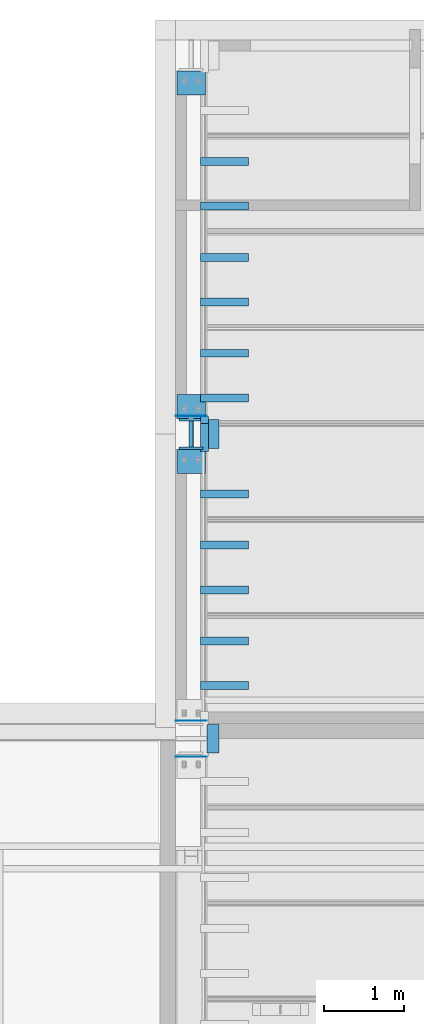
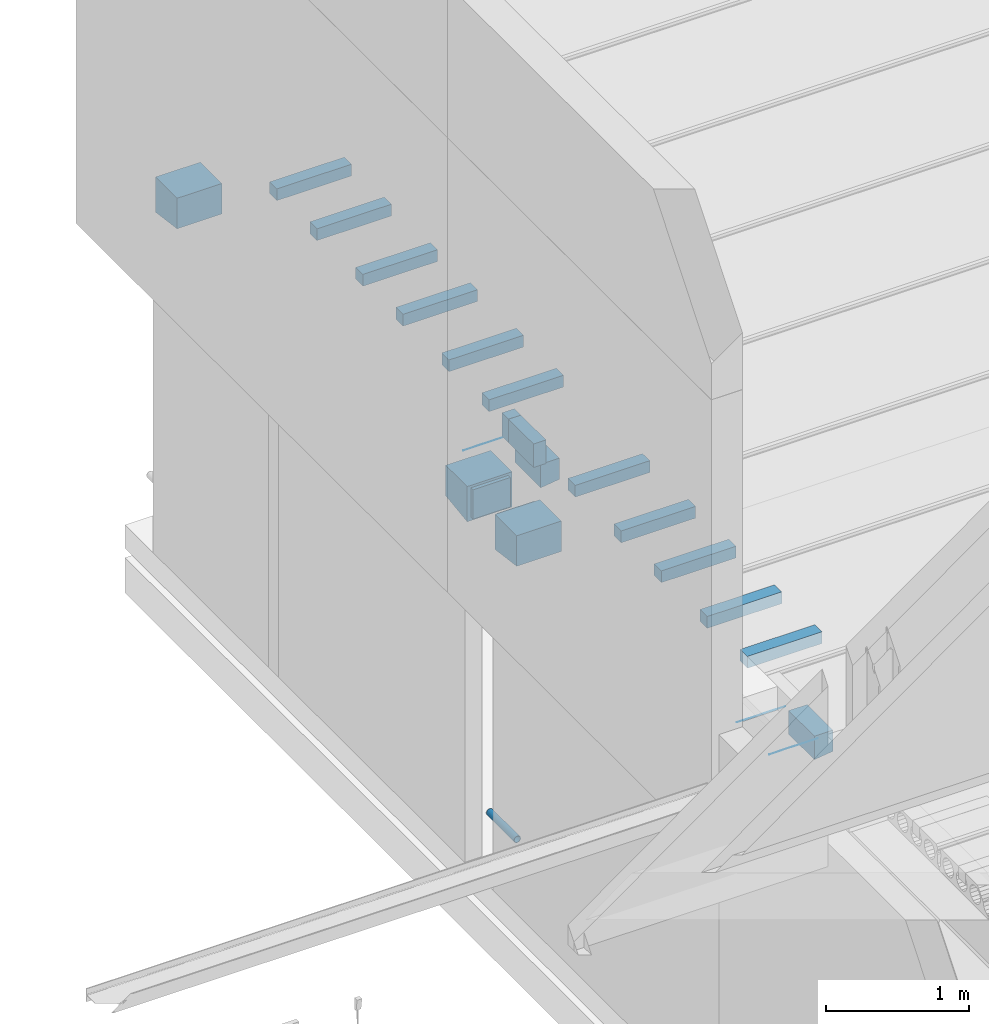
# One storey, part 24 of 230: 27 beams.
"""IFC4X3_ADD2 building model written with IfcOpenShell, lengths in millimetres."""

from ifc_helpers import new_model, entity, si_unit, direction, frame, frame_2d, origin_with_axes, place, context, subcontext, project, spatial, rectangle, hollow_circle, extrude, material, element, save


model = new_model("IFC4X3_ADD2")

# Units and contexts
model_context = context("Model", 3, precision=1e-05, world=origin_with_axes(), true_north=direction((0.0, 1.0)))
body_context = subcontext(model_context, "Body", "Model", "MODEL_VIEW")
ifc_project = project(units=[si_unit("LENGTHUNIT", "METRE", prefix="MILLI"), si_unit("AREAUNIT", "SQUARE_METRE"), si_unit("VOLUMEUNIT", "CUBIC_METRE"), si_unit("PLANEANGLEUNIT", "RADIAN"), si_unit("TIMEUNIT", "SECOND"), si_unit("MASSUNIT", "GRAM")], contexts=[model_context])

# Site, building, storey
site_placement = place(None, origin_with_axes())
site = spatial("IfcSite", under=ifc_project, at=site_placement, Name="Site", CompositionType="ELEMENT")
building_placement = place(site_placement, origin_with_axes())
building = spatial("IfcBuilding", under=site, at=building_placement, Name="IFC Building Story")
storey_placement = place(building_placement, origin_with_axes())
storey = spatial("IfcBuildingStorey", under=building, at=storey_placement, Name="ETAGE 00 (0)", Elevation=0.0)

# Beams
ifc_material_1 = material(Name="STEEL/Accessory_C50/60 64192")
for number, where, z_axis, x_axis, name in (
    (1, (33221.1883991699, 21274.9996109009, 3540.0), (1.0, 0.0, 0.0), (0.0, 0.0, 1.0), "BEK1"),
    (2, (33581.1883991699, 21964.9996109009, 3540.0), (-1.0, 0.0, 0.0), (0.0, 0.0, 1.0), "BEK1"),
):
    element("IfcBeam", number, at=place(storey_placement, frame(where, z_axis=z_axis, x_axis=x_axis)), inside=storey, material=ifc_material_1, Name=name, ObjectType="CORBEL300-300-260", context=body_context, shape_type="SweptSolid", body=[
        extrude(entity("IfcTrapeziumProfileDef", "AREA", None, entity("IfcAxis2Placement2D", entity("IfcCartesianPoint", [0.0, 5.95523630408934e-12]), entity("IfcDirection", [1.0, 0.0])), 300.0, 260.0, 300.0, 40.0), origin_with_axes(), (0.0, 0.0, 1.0), 360.0),
    ])
beam_1_placement = place(storey_placement, frame((33671.1883991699, 21439.9996109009, 3875.0), z_axis=(0.0, 1.0, 0.0), x_axis=(0.0, 0.0, 1.0)))
element("IfcBeam", 3, at=beam_1_placement, inside=storey, material=ifc_material_1, Name="BEK1", ObjectType="CORBEL200-150-180", context=body_context, shape_type="SweptSolid", body=[
    extrude(entity("IfcTrapeziumProfileDef", "AREA", None, entity("IfcAxis2Placement2D", entity("IfcCartesianPoint", [0.0, 5.95523630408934e-12]), entity("IfcDirection", [1.0, 0.0])), 200.0, 180.0, 150.0, 19.9999999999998), origin_with_axes(), (0.0, 0.0, 1.0), 360.0),
])
beam_2_placement = place(storey_placement, frame((33221.1883474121, 26009.9989624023, 3540.0), z_axis=(1.0, 0.0, 0.0), x_axis=(0.0, 0.0, 1.0)))
element("IfcBeam", 4, at=beam_2_placement, inside=storey, material=ifc_material_1, Name="BEK1", ObjectType="CORBEL300-300-260", context=body_context, shape_type="SweptSolid", body=[
    extrude(entity("IfcTrapeziumProfileDef", "AREA", None, entity("IfcAxis2Placement2D", entity("IfcCartesianPoint", [0.0, 5.95523630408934e-12]), entity("IfcDirection", [1.0, 0.0])), 300.0, 260.0, 300.0, 40.0), origin_with_axes(), (0.0, 0.0, 1.0), 360.0),
])
beam_3_placement = place(storey_placement, frame((33671.188, 17625.0, 3875.0), z_axis=(0.0, 1.0, 0.0), x_axis=(0.0, 0.0, 1.0)))
element("IfcBeam", 5, at=beam_3_placement, inside=storey, material=ifc_material_1, Name="BEK1", ObjectType="CORBEL200-150-180", context=body_context, shape_type="SweptSolid", body=[
    extrude(entity("IfcTrapeziumProfileDef", "AREA", None, entity("IfcAxis2Placement2D", entity("IfcCartesianPoint", [0.0, 5.95523630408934e-12]), entity("IfcDirection", [1.0, 0.0])), 200.0, 180.0, 150.0, 19.9999999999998), origin_with_axes(), (0.0, 0.0, 1.0), 360.0),
])
ifc_material_2 = material(Name="STEEL/Accessory_invisible")
for number, where, z_axis, x_axis, name in (
    (6, (34116.189, 19030.0009155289, 4150.0), (-1.0, 0.0, 0.0), (0.0, 1.0, 0.0), "ES7"),
    (7, (34116.189, 18470.0009155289, 4150.0), (-1.0, 0.0, 0.0), (0.0, 1.0, 0.0), "ES7"),
    (8, (34116.1890000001, 20230.0009155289, 4150.0), (-1.0, 0.0, 0.0), (0.0, 1.0, 0.0), "ES7"),
    (9, (34116.1889999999, 19670.0009155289, 4150.0), (-1.0, 0.0, 0.0), (0.0, 1.0, 0.0), "ES7"),
):
    element("IfcBeam", number, at=place(storey_placement, frame(where, z_axis=z_axis, x_axis=x_axis)), inside=storey, material=ifc_material_2, Name=name, ObjectType="100*100", context=body_context, shape_type="SweptSolid", body=[
        extrude(rectangle(XDim=100.0, YDim=99.99999999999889, at=frame_2d((0.0, 5.95523630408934e-12), x_axis=(1.0, 0.0))), origin_with_axes(), (0.0, 0.0, 1.0), 600.0),
    ])
beam_4_placement = place(storey_placement, frame((33516.1890000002, 21575.0009155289, 4099.9999909), z_axis=(1.0, 0.0, 0.0), x_axis=(0.0, 0.0, -1.0)))
element("IfcBeam", 10, at=beam_4_placement, inside=storey, material=ifc_material_2, Name="ES32", ObjectType="200*350", context=body_context, shape_type="SweptSolid", body=[
    extrude(rectangle(XDim=200.0, YDim=350.000000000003, at=frame_2d((0.0, 5.95523630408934e-12), x_axis=(1.0, 0.0))), origin_with_axes(), (0.0, 0.0, 1.0), 100.0),
])
beam_5_placement = place(storey_placement, frame((34116.1889999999, 20870.0009155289, 4150.0), z_axis=(-1.0, 0.0, 0.0), x_axis=(0.0, 1.0, 0.0)))
element("IfcBeam", 11, at=beam_5_placement, inside=storey, material=ifc_material_2, Name="ES7", ObjectType="100*100", context=body_context, shape_type="SweptSolid", body=[
    extrude(rectangle(XDim=100.0, YDim=99.99999999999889, at=frame_2d((0.0, 5.95523630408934e-12), x_axis=(1.0, 0.0))), origin_with_axes(), (0.0, 0.0, 1.0), 600.0),
])
beam_6_placement = place(storey_placement, frame((33616.18899999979, 21795.0009155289, 4099.9999909), z_axis=(-1.0, 0.0, 0.0), x_axis=(0.0, 0.0, 1.0)))
element("IfcBeam", 12, at=beam_6_placement, inside=storey, material=ifc_material_2, Name="ES32", ObjectType="200*90", context=body_context, shape_type="SweptSolid", body=[
    extrude(rectangle(XDim=200.0, YDim=89.99999999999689, at=frame_2d((0.0, 5.95523630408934e-12), x_axis=(1.0, 0.0))), origin_with_axes(), (0.0, 0.0, 1.0), 99.99999999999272),
])
for number, where, z_axis, x_axis, name in (
    (13, (34116.1890000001, 22630.0009155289, 4150.0), (-1.0, 0.0, 0.0), (0.0, 1.0, 0.0), "ES7"),
    (14, (34116.1889999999, 22070.0009155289, 4150.0), (-1.0, 0.0, 0.0), (0.0, 1.0, 0.0), "ES7"),
    (15, (34116.1890000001, 23830.0009155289, 4150.0), (-1.0, 0.0, 0.0), (0.0, 1.0, 0.0), "ES7"),
    (16, (34116.1889999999, 23270.0009155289, 4150.0), (-1.0, 0.0, 0.0), (0.0, 1.0, 0.0), "ES7"),
    (17, (34116.1889999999, 25030.0009155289, 4150.0), (-1.0, 0.0, 0.0), (0.0, 1.0, 0.0), "ES7"),
    (18, (34116.1890000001, 24470.0009155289, 4150.0), (-1.0, 0.0, 0.0), (0.0, 1.0, 0.0), "ES7"),
):
    element("IfcBeam", number, at=place(storey_placement, frame(where, z_axis=z_axis, x_axis=x_axis)), inside=storey, material=ifc_material_2, Name=name, ObjectType="100*100", context=body_context, shape_type="SweptSolid", body=[
        extrude(rectangle(XDim=100.0, YDim=99.99999999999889, at=frame_2d((0.0, 5.95523630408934e-12), x_axis=(1.0, 0.0))), origin_with_axes(), (0.0, 0.0, 1.0), 600.0),
    ])
ifc_material_3 = material(Name="STEEL/Accessory_EPS")
for number, where, z_axis, x_axis, name in (
    (19, (33551.1883991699, 21439.9996109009, 3544.99999999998), (-1.0, 0.0, 0.0), (0.0, 0.0, 1.0), "POL4"),
    (20, (33551.1883991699, 21799.9996109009, 3544.99999999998), (-1.0, 0.0, 0.0), (0.0, 0.0, 1.0), "POL4"),
):
    element("IfcBeam", number, at=place(storey_placement, frame(where, z_axis=z_axis, x_axis=x_axis)), inside=storey, material=ifc_material_3, Name=name, ObjectType="30*300", context=body_context, shape_type="SweptSolid", body=[
        extrude(rectangle(XDim=250.0, YDim=30.0000000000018, at=frame_2d((0.0, 5.95523630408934e-12), x_axis=(1.0, 0.0))), origin_with_axes(), (0.0, 0.0, 1.0), 300.0),
    ])
ifc_material_4 = material(Name="STEEL/Accessory_PVC")
beam_7_placement = place(storey_placement, frame((33401.1883991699, 21427.9996108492, 860.0), z_axis=(0.0, 1.0, 0.0), x_axis=(1.0, 0.0, 0.0)))
element("IfcBeam", 21, at=beam_7_placement, inside=storey, material=ifc_material_4, Name="PS13", ObjectType="O56*3", context=body_context, shape_type="SweptSolid", body=[
    extrude(hollow_circle(Radius=28.0, WallThickness=3.0, at=frame_2d((0.0, 5.95523630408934e-12), x_axis=(1.0, 0.0))), origin_with_axes(), (0.0, 0.0, 1.0), 384.0),
])
beam_8_placement = place(storey_placement, frame((33596.188, 17580.0, 3984.5), z_axis=(-1.0, 0.0, 0.0), x_axis=(0.0, 1.0, 0.0)))
element("IfcBeam", 22, at=beam_8_placement, inside=storey, material=ifc_material_2, Name="ZW3", ObjectType="1*1 3", context=body_context, shape_type="SweptSolid", body=[
    extrude(rectangle(XDim=0.9999999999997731, YDim=0.9999999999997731, at=frame_2d((0.0, 5.95523630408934e-12), x_axis=(1.0, 0.0))), origin_with_axes(), (0.0, 0.0, 1.0), 119.9000000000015),
])
beam_9_placement = place(storey_placement, frame((33476.18800000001, 17580.0, 3984.5), z_axis=(-1.0, 0.0, 0.0), x_axis=(0.0, 1.0, 0.0)))
element("IfcBeam", 23, at=beam_9_placement, inside=storey, material=ifc_material_2, Name="ZW3", ObjectType="1*1 3", context=body_context, shape_type="SweptSolid", body=[
    extrude(rectangle(XDim=0.9999999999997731, YDim=0.9999999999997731, at=frame_2d((0.0, 5.95523630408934e-12), x_axis=(1.0, 0.0))), origin_with_axes(), (0.0, 0.0, 1.0), 270.0000000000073),
])
beam_10_placement = place(storey_placement, frame((33596.188, 18030.0, 3984.5), z_axis=(-1.0, 0.0, 0.0), x_axis=(0.0, 1.0, 0.0)))
element("IfcBeam", 24, at=beam_10_placement, inside=storey, material=ifc_material_2, Name="ZW3", ObjectType="1*1 3", context=body_context, shape_type="SweptSolid", body=[
    extrude(rectangle(XDim=0.9999999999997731, YDim=0.9999999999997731, at=frame_2d((0.0, 5.95523630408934e-12), x_axis=(1.0, 0.0))), origin_with_axes(), (0.0, 0.0, 1.0), 119.9000000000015),
])
beam_11_placement = place(storey_placement, frame((33476.18800000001, 18030.0, 3984.5), z_axis=(-1.0, 0.0, 0.0), x_axis=(0.0, 1.0, 0.0)))
element("IfcBeam", 25, at=beam_11_placement, inside=storey, material=ifc_material_2, Name="ZW3", ObjectType="1*1 3", context=body_context, shape_type="SweptSolid", body=[
    extrude(rectangle(XDim=0.9999999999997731, YDim=0.9999999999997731, at=frame_2d((0.0, 5.95523630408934e-12), x_axis=(1.0, 0.0))), origin_with_axes(), (0.0, 0.0, 1.0), 270.0000000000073),
])
beam_12_placement = place(storey_placement, frame((33596.188, 21844.9996109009, 3984.5), z_axis=(-1.0, 0.0, 0.0), x_axis=(0.0, 1.0, 0.0)))
element("IfcBeam", 26, at=beam_12_placement, inside=storey, material=ifc_material_2, Name="ZW3", ObjectType="1*1 3", context=body_context, shape_type="SweptSolid", body=[
    extrude(rectangle(XDim=0.9999999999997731, YDim=0.9999999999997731, at=frame_2d((0.0, 5.95523630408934e-12), x_axis=(1.0, 0.0))), origin_with_axes(), (0.0, 0.0, 1.0), 119.9000000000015),
])
beam_13_placement = place(storey_placement, frame((33476.18800000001, 21844.9996109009, 3984.5), z_axis=(-1.0, 0.0, 0.0), x_axis=(0.0, 1.0, 0.0)))
element("IfcBeam", 27, at=beam_13_placement, inside=storey, material=ifc_material_2, Name="ZW3", ObjectType="1*1 3", context=body_context, shape_type="SweptSolid", body=[
    extrude(rectangle(XDim=0.9999999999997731, YDim=0.9999999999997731, at=frame_2d((0.0, 5.95523630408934e-12), x_axis=(1.0, 0.0))), origin_with_axes(), (0.0, 0.0, 1.0), 270.0000000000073),
])

save(model, "model.ifc")
